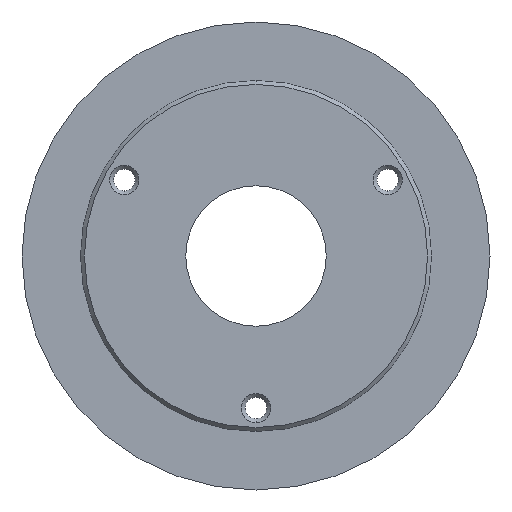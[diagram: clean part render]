
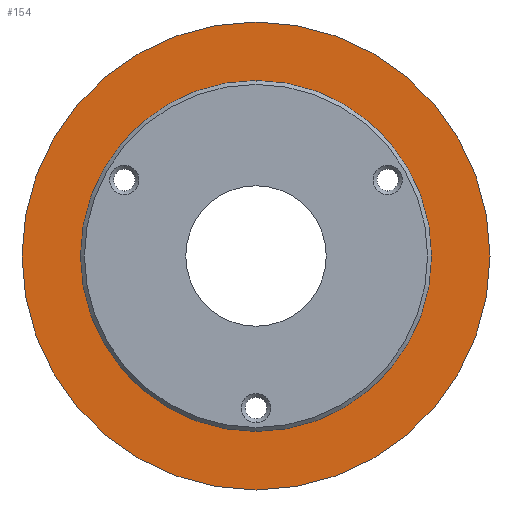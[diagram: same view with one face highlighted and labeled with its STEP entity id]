
A CAD part, front view. The second image highlights one B-rep face of the part: STEP entity #154.
In plain terms, the highlighted planar face has unit normal (0, -1, 0).
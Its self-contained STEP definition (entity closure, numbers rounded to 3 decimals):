
#76 = DIRECTION ( 'NONE',  ( 0., 0., 1. ) ) ;
#96 = CIRCLE ( 'NONE', #380, 45. ) ;
#103 = VERTEX_POINT ( 'NONE', #385 ) ;
#139 = FACE_BOUND ( 'NONE', #998, .T. ) ;
#144 = CIRCLE ( 'NONE', #358, 60. ) ;
#154 = ADVANCED_FACE ( 'NONE', ( #139, #177 ), #267, .F. ) ;
#160 = ORIENTED_EDGE ( 'NONE', *, *, #327, .T. ) ;
#177 = FACE_OUTER_BOUND ( 'NONE', #672, .T. ) ;
#223 = AXIS2_PLACEMENT_3D ( 'NONE', #740, #642, #76 ) ;
#267 = PLANE ( 'NONE',  #223 ) ;
#297 = EDGE_CURVE ( 'NONE', #904, #488, #96, .T. ) ;
#327 = EDGE_CURVE ( 'NONE', #1135, #103, #1083, .T. ) ;
#334 = AXIS2_PLACEMENT_3D ( 'NONE', #959, #832, #939 ) ;
#358 = AXIS2_PLACEMENT_3D ( 'NONE', #637, #1068, #595 ) ;
#380 = AXIS2_PLACEMENT_3D ( 'NONE', #586, #625, #1124 ) ;
#385 = CARTESIAN_POINT ( 'NONE',  ( 0., 11., -60. ) ) ;
#430 = ORIENTED_EDGE ( 'NONE', *, *, #890, .F. ) ;
#488 = VERTEX_POINT ( 'NONE', #945 ) ;
#536 = CIRCLE ( 'NONE', #1130, 45. ) ;
#561 = CARTESIAN_POINT ( 'NONE',  ( 0., 11., 45. ) ) ;
#586 = CARTESIAN_POINT ( 'NONE',  ( 0., 11., 0. ) ) ;
#595 = DIRECTION ( 'NONE',  ( 0., 0., -1. ) ) ;
#618 = ORIENTED_EDGE ( 'NONE', *, *, #297, .F. ) ;
#625 = DIRECTION ( 'NONE',  ( 0., -1., 0. ) ) ;
#637 = CARTESIAN_POINT ( 'NONE',  ( 0., 11., 0. ) ) ;
#642 = DIRECTION ( 'NONE',  ( 0., 1., 0. ) ) ;
#644 = DIRECTION ( 'NONE',  ( 0., 0., -1. ) ) ;
#646 = DIRECTION ( 'NONE',  ( 0., -1., 0. ) ) ;
#671 = CARTESIAN_POINT ( 'NONE',  ( 0., 11., 0. ) ) ;
#672 = EDGE_LOOP ( 'NONE', ( #1194, #160 ) ) ;
#740 = CARTESIAN_POINT ( 'NONE',  ( -45., 11., 0. ) ) ;
#828 = EDGE_CURVE ( 'NONE', #103, #1135, #144, .T. ) ;
#832 = DIRECTION ( 'NONE',  ( 0., -1., 0. ) ) ;
#890 = EDGE_CURVE ( 'NONE', #488, #904, #536, .T. ) ;
#904 = VERTEX_POINT ( 'NONE', #561 ) ;
#939 = DIRECTION ( 'NONE',  ( 0., 0., -1. ) ) ;
#945 = CARTESIAN_POINT ( 'NONE',  ( 0., 11., -45. ) ) ;
#959 = CARTESIAN_POINT ( 'NONE',  ( 0., 11., 0. ) ) ;
#998 = EDGE_LOOP ( 'NONE', ( #430, #618 ) ) ;
#1068 = DIRECTION ( 'NONE',  ( 0., -1., 0. ) ) ;
#1083 = CIRCLE ( 'NONE', #334, 60. ) ;
#1115 = CARTESIAN_POINT ( 'NONE',  ( 0., 11., 60. ) ) ;
#1124 = DIRECTION ( 'NONE',  ( 0., 0., -1. ) ) ;
#1130 = AXIS2_PLACEMENT_3D ( 'NONE', #671, #646, #644 ) ;
#1135 = VERTEX_POINT ( 'NONE', #1115 ) ;
#1194 = ORIENTED_EDGE ( 'NONE', *, *, #828, .T. ) ;
